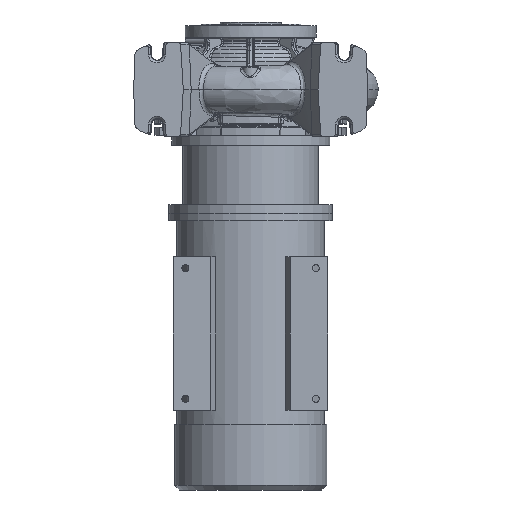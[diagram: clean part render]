
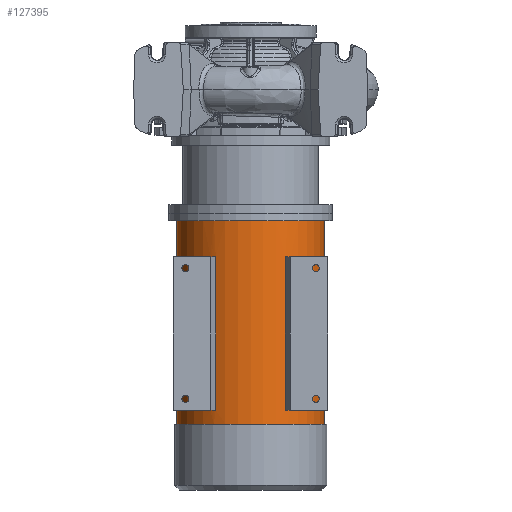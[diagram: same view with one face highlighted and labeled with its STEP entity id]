
A CAD part, front view. The second image highlights one B-rep face of the part: STEP entity #127395.
In plain terms, the highlighted cylindrical face has radius 157.5 mm (diameter 315 mm), a partial arc.
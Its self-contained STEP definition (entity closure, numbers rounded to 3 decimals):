
#603 = CARTESIAN_POINT ( 'NONE',  ( 0., 0., -357.3 ) ) ;
#1888 = EDGE_LOOP ( 'NONE', ( #140258, #108714, #49069, #145519 ) ) ;
#6230 = CIRCLE ( 'NONE', #156577, 157.5 ) ;
#6242 = LINE ( 'NONE', #46173, #129191 ) ;
#7418 = CARTESIAN_POINT ( 'NONE',  ( 0., 0., -685.3 ) ) ;
#11494 = EDGE_CURVE ( 'NONE', #176422, #69252, #128088, .T. ) ;
#15629 = VECTOR ( 'NONE', #92626, 1000. ) ;
#18773 = CIRCLE ( 'NONE', #167004, 157.5 ) ;
#24192 = VERTEX_POINT ( 'NONE', #157160 ) ;
#27012 = CIRCLE ( 'NONE', #67935, 157.5 ) ;
#36020 = EDGE_CURVE ( 'NONE', #56978, #162826, #166144, .T. ) ;
#37848 = DIRECTION ( 'NONE',  ( 0., 0., -1. ) ) ;
#39431 = DIRECTION ( 'NONE',  ( -1., 0., 0. ) ) ;
#40572 = EDGE_CURVE ( 'NONE', #162826, #139284, #27012, .T. ) ;
#44130 = DIRECTION ( 'NONE',  ( 0., 0., -1. ) ) ;
#44662 = CARTESIAN_POINT ( 'NONE',  ( 0., 0., -280.8 ) ) ;
#46173 = CARTESIAN_POINT ( 'NONE',  ( 157.5, 0., -855.8 ) ) ;
#49069 = ORIENTED_EDGE ( 'NONE', *, *, #94596, .T. ) ;
#50634 = DIRECTION ( 'NONE',  ( 0., 0., 1. ) ) ;
#54071 = EDGE_LOOP ( 'NONE', ( #55821, #177739, #100305, #79998 ) ) ;
#55821 = ORIENTED_EDGE ( 'NONE', *, *, #11494, .F. ) ;
#56903 = CARTESIAN_POINT ( 'NONE',  ( 74.479, -138.777, -855.8 ) ) ;
#56978 = VERTEX_POINT ( 'NONE', #85626 ) ;
#58710 = CYLINDRICAL_SURFACE ( 'NONE', #108798, 157.5 ) ;
#58802 = DIRECTION ( 'NONE',  ( 0., 0., -1. ) ) ;
#59067 = DIRECTION ( 'NONE',  ( -1., 0., 0. ) ) ;
#60018 = CIRCLE ( 'NONE', #142445, 157.5 ) ;
#61883 = VECTOR ( 'NONE', #146367, 1000. ) ;
#66409 = VERTEX_POINT ( 'NONE', #123147 ) ;
#66933 = DIRECTION ( 'NONE',  ( 0., 0., 1. ) ) ;
#67240 = AXIS2_PLACEMENT_3D ( 'NONE', #44662, #154338, #59067 ) ;
#67935 = AXIS2_PLACEMENT_3D ( 'NONE', #603, #66933, #165166 ) ;
#69252 = VERTEX_POINT ( 'NONE', #140959 ) ;
#71615 = EDGE_CURVE ( 'NONE', #66409, #127887, #112642, .T. ) ;
#74103 = VECTOR ( 'NONE', #160909, 1000. ) ;
#78193 = CARTESIAN_POINT ( 'NONE',  ( -157.5, 0., -855.8 ) ) ;
#79998 = ORIENTED_EDGE ( 'NONE', *, *, #172504, .F. ) ;
#80274 = CARTESIAN_POINT ( 'NONE',  ( 74.479, -138.777, -357.3 ) ) ;
#83953 = EDGE_CURVE ( 'NONE', #176422, #127887, #60018, .T. ) ;
#84639 = FACE_BOUND ( 'NONE', #54071, .T. ) ;
#85626 = CARTESIAN_POINT ( 'NONE',  ( 74.479, -138.777, -685.3 ) ) ;
#85706 = CARTESIAN_POINT ( 'NONE',  ( 86.091, -131.889, -357.3 ) ) ;
#86785 = AXIS2_PLACEMENT_3D ( 'NONE', #111986, #139128, #137345 ) ;
#86837 = FACE_OUTER_BOUND ( 'NONE', #1888, .T. ) ;
#87656 = EDGE_CURVE ( 'NONE', #56978, #94236, #18773, .T. ) ;
#88448 = CARTESIAN_POINT ( 'NONE',  ( 0., 0., -855.8 ) ) ;
#91032 = VERTEX_POINT ( 'NONE', #130745 ) ;
#91382 = CARTESIAN_POINT ( 'NONE',  ( 157.5, 0., -714.8 ) ) ;
#92626 = DIRECTION ( 'NONE',  ( 0., 0., -1. ) ) ;
#93860 = EDGE_CURVE ( 'NONE', #24192, #91032, #122460, .T. ) ;
#94236 = VERTEX_POINT ( 'NONE', #104251 ) ;
#94596 = EDGE_CURVE ( 'NONE', #91032, #100870, #98545, .T. ) ;
#95614 = CARTESIAN_POINT ( 'NONE',  ( -74.479, -138.777, -685.3 ) ) ;
#96734 = LINE ( 'NONE', #111070, #170035 ) ;
#98545 = LINE ( 'NONE', #78193, #61883 ) ;
#100305 = ORIENTED_EDGE ( 'NONE', *, *, #71615, .F. ) ;
#100870 = VERTEX_POINT ( 'NONE', #119174 ) ;
#103869 = ORIENTED_EDGE ( 'NONE', *, *, #87656, .F. ) ;
#104251 = CARTESIAN_POINT ( 'NONE',  ( 86.091, -131.889, -685.3 ) ) ;
#107590 = EDGE_CURVE ( 'NONE', #139284, #94236, #96734, .T. ) ;
#108714 = ORIENTED_EDGE ( 'NONE', *, *, #93860, .T. ) ;
#108798 = AXIS2_PLACEMENT_3D ( 'NONE', #88448, #37848, #133650 ) ;
#111070 = CARTESIAN_POINT ( 'NONE',  ( 86.091, -131.889, -855.8 ) ) ;
#111986 = CARTESIAN_POINT ( 'NONE',  ( 0., 0., -714.8 ) ) ;
#112642 = LINE ( 'NONE', #147508, #15629 ) ;
#118223 = ORIENTED_EDGE ( 'NONE', *, *, #107590, .T. ) ;
#119174 = CARTESIAN_POINT ( 'NONE',  ( -157.5, 0., -714.8 ) ) ;
#119294 = CARTESIAN_POINT ( 'NONE',  ( -74.479, -138.777, -855.8 ) ) ;
#121956 = DIRECTION ( 'NONE',  ( 0., 0., 1. ) ) ;
#122460 = CIRCLE ( 'NONE', #67240, 157.5 ) ;
#122601 = DIRECTION ( 'NONE',  ( 1., 0., 0. ) ) ;
#123147 = CARTESIAN_POINT ( 'NONE',  ( -86.091, -131.889, -357.3 ) ) ;
#123597 = FACE_BOUND ( 'NONE', #176692, .T. ) ;
#124902 = DIRECTION ( 'NONE',  ( 0., 0., -1. ) ) ;
#127395 = ADVANCED_FACE ( 'NONE', ( #86837, #123597, #84639 ), #58710, .T. ) ;
#127887 = VERTEX_POINT ( 'NONE', #161605 ) ;
#128088 = LINE ( 'NONE', #119294, #74103 ) ;
#129191 = VECTOR ( 'NONE', #58802, 1000. ) ;
#130745 = CARTESIAN_POINT ( 'NONE',  ( -157.5, 0., -280.8 ) ) ;
#133650 = DIRECTION ( 'NONE',  ( -1., 0., 0. ) ) ;
#136469 = CARTESIAN_POINT ( 'NONE',  ( 0., 0., -357.3 ) ) ;
#137345 = DIRECTION ( 'NONE',  ( -1., 0., 0. ) ) ;
#137403 = EDGE_CURVE ( 'NONE', #174839, #100870, #141308, .T. ) ;
#139128 = DIRECTION ( 'NONE',  ( 0., 0., -1. ) ) ;
#139284 = VERTEX_POINT ( 'NONE', #85706 ) ;
#140258 = ORIENTED_EDGE ( 'NONE', *, *, #155541, .F. ) ;
#140959 = CARTESIAN_POINT ( 'NONE',  ( -74.479, -138.777, -357.3 ) ) ;
#141308 = CIRCLE ( 'NONE', #86785, 157.5 ) ;
#142445 = AXIS2_PLACEMENT_3D ( 'NONE', #149282, #44130, #166516 ) ;
#145519 = ORIENTED_EDGE ( 'NONE', *, *, #137403, .F. ) ;
#145795 = ORIENTED_EDGE ( 'NONE', *, *, #40572, .T. ) ;
#146367 = DIRECTION ( 'NONE',  ( 0., 0., -1. ) ) ;
#146398 = ORIENTED_EDGE ( 'NONE', *, *, #36020, .T. ) ;
#147508 = CARTESIAN_POINT ( 'NONE',  ( -86.091, -131.889, -855.8 ) ) ;
#147957 = DIRECTION ( 'NONE',  ( 0., 0., -1. ) ) ;
#149282 = CARTESIAN_POINT ( 'NONE',  ( 0., 0., -685.3 ) ) ;
#154338 = DIRECTION ( 'NONE',  ( 0., 0., -1. ) ) ;
#155541 = EDGE_CURVE ( 'NONE', #24192, #174839, #6242, .T. ) ;
#156577 = AXIS2_PLACEMENT_3D ( 'NONE', #136469, #147957, #122601 ) ;
#157160 = CARTESIAN_POINT ( 'NONE',  ( 157.5, 0., -280.8 ) ) ;
#160909 = DIRECTION ( 'NONE',  ( 0., 0., 1. ) ) ;
#161605 = CARTESIAN_POINT ( 'NONE',  ( -86.091, -131.889, -685.3 ) ) ;
#162826 = VERTEX_POINT ( 'NONE', #80274 ) ;
#165166 = DIRECTION ( 'NONE',  ( -1., 0., 0. ) ) ;
#166144 = LINE ( 'NONE', #56903, #172697 ) ;
#166516 = DIRECTION ( 'NONE',  ( 1., 0., 0. ) ) ;
#167004 = AXIS2_PLACEMENT_3D ( 'NONE', #7418, #121956, #39431 ) ;
#170035 = VECTOR ( 'NONE', #124902, 1000. ) ;
#172504 = EDGE_CURVE ( 'NONE', #69252, #66409, #6230, .T. ) ;
#172697 = VECTOR ( 'NONE', #50634, 1000. ) ;
#174839 = VERTEX_POINT ( 'NONE', #91382 ) ;
#176422 = VERTEX_POINT ( 'NONE', #95614 ) ;
#176692 = EDGE_LOOP ( 'NONE', ( #103869, #146398, #145795, #118223 ) ) ;
#177739 = ORIENTED_EDGE ( 'NONE', *, *, #83953, .T. ) ;
